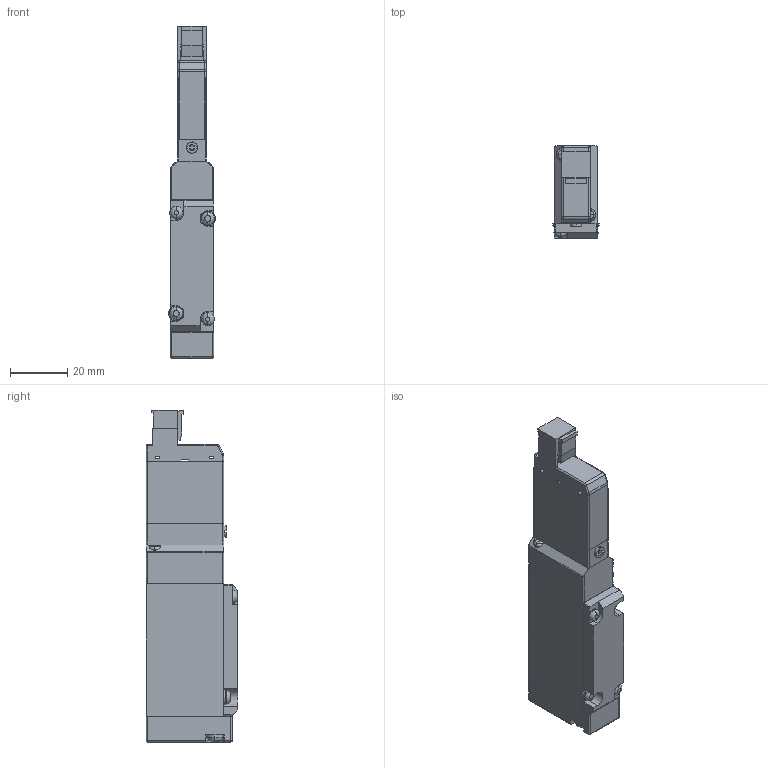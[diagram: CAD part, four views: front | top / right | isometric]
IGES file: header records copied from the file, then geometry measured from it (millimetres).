
Start section: ------------------------------------------------------------------------
Global section: file name: D:\ICADMX\tmp\trans3d_spg\CVICAD02.7120.F15T0-A1-PS_16688.igs; native system: spGate; preprocessor: ver12.6.6; author: Unknown; organization: Unknown; date: 210712.184818; units: millimetre
Bounding box: 16.2 x 32 x 115.5 mm (x, y, z)
Volume: 40725.4 mm3; surface area: 15743 mm2
Topology: 6 solids, 6 shells, 292 faces, 750 edges, 475 vertices
Faces by surface type: bspline 292
